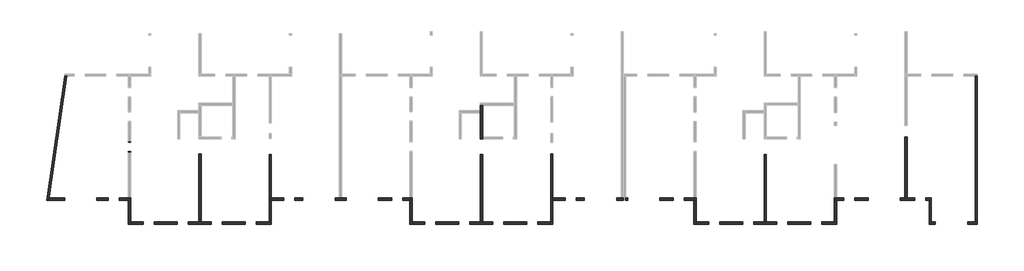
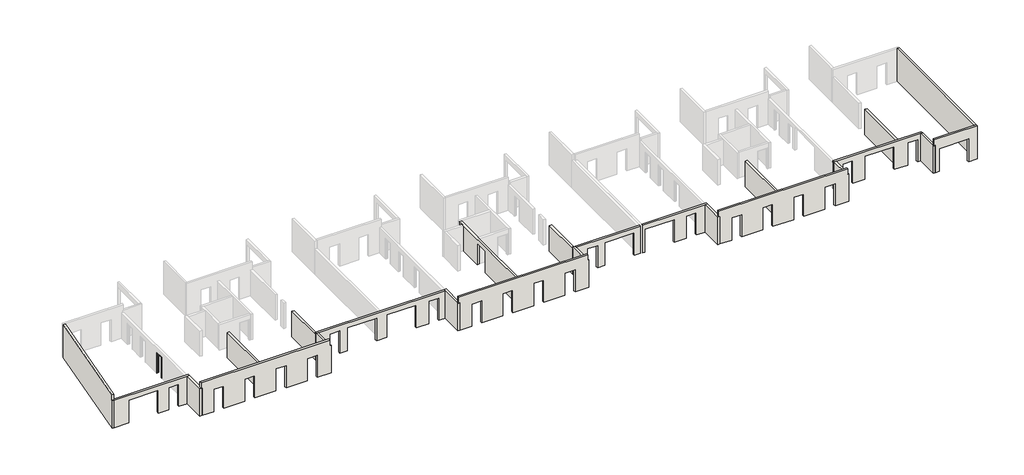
# One storey, part 1 of 3: 24 walls, 1 door.
"""IFC4 building model written with IfcOpenShell, lengths in millimetres."""

from ifc_helpers import new_model, si_unit, frame, origin, place, context, project, spatial, polyline, outline, extrude, faceted_brep, transform, mapped, element, save
from components import door_48b161e2

model = new_model("IFC4")

# Units and contexts
model_context = context("Model", 3, world=origin())
ifc_project = project(units=[si_unit("LENGTHUNIT", "METRE", prefix="MILLI")], contexts=[model_context])

# Site, building, storey
site = spatial("IfcSite", under=ifc_project)
building = spatial("IfcBuilding", under=site)
storey = spatial("IfcBuildingStorey", under=building, Name="Niv +2", Elevation=5400.0)

# Door
placement = place(None, origin())
door_shape = door_48b161e2(model_context)
element("IfcDoor", 1, ObjectType="FREYS HUISSERIE A BANCHER : FREYS 83*2.035", at=placement, inside=storey, context=model_context, shape_type="MappedRepresentation", body=[
    mapped(door_shape, transform((-24535.4687207, 207.5134423, 5400.0), x_axis=(0.0, 1.0, 0.0), y_axis=(-1.0, 0.0, 0.0), z_axis=(0.0, 0.0, 1.0))),
])

# Walls
element("IfcWall", 2, ObjectType="FREYS voile BA C25/30 ep=20 INT", at=placement, inside=storey, context=model_context, shape_type="SweptSolid", body=[
    extrude(outline(polyline([(29564.5058748, -6223.682253), (29564.5058748, -433.6571301), (29764.5058748, -433.6571301), (29764.5058748, -6223.682253), (29564.5058748, -6223.682253)])), frame((0.0, 0.0, 5400.0), z_axis=(0.0, 0.0, 1.0), x_axis=(1.0, 0.0, 0.0)), (0.0, 0.0, 1.0), 2500.0),
])
element("IfcWall", 3, ObjectType="FREYS voile BA C25/30 ep=20 INT", at=placement, inside=storey, context=model_context, shape_type="SweptSolid", body=[
    extrude(outline(polyline([(41564.5566776, -4173.6837353), (41564.5566776, 1056.3989108), (41764.5566776, 1056.3989108), (41764.5566776, -4173.6837353), (41564.5566776, -4173.6837353)])), frame((0.0, 0.0, 5400.0), z_axis=(0.0, 0.0, 1.0), x_axis=(1.0, 0.0, 0.0)), (0.0, 0.0, 1.0), 2500.0),
])
element("IfcWall", 4, ObjectType="FREYS voile BA C25/30 ep=18 EXT", at=placement, inside=storey, context=model_context, shape_type="Brep", body=[
    faceted_brep([(-30063.034009, 6246.3702418, 5400.0), (-31609.8766701, -4353.6571231, 5400.0), (-31609.8766701, -4353.6571231, 7890.0), (-31609.8766701, -4353.6571231, 8100.0), (-31594.8466676, -4250.6612322, 8100.0), (-31594.8466676, -4250.6612322, 8650.0), (-30063.034009, 6246.3702418, 8650.0), (-29881.1275521, 6246.3702418, 5400.0), (-29881.1275521, 6246.3702418, 8650.0), (-31416.733144, -4276.6530139, 8650.0), (-31416.733144, -4276.6530139, 8100.0), (-31427.9702133, -4353.6571231, 8100.0), (-31427.9702133, -4353.6571231, 7890.0), (-31427.9702133, -4353.6571231, 5400.0), (-31401.7031415, -4173.6571231, 5400.0)], [[[0, 1, 2, 3, 4, 5, 6]], [[7, 8, 9, 10, 11, 12, 13, 14]], [[1, 0, 7, 14, 13]], [[6, 5, 9, 8]], [[0, 6, 8, 7]], [[5, 4, 10, 9]], [[10, 4, 3, 11]], [[1, 13, 12, 11, 3, 2]]]),
])
element("IfcWall", 5, ObjectType="FREYS voile BA C25/30 ep=18 EXT", at=placement, inside=storey, context=model_context, shape_type="Brep", body=[
    faceted_brep([(-27315.4431946, -4353.6571231, 7630.0), (-27315.4431946, -4353.6571231, 5400.0), (-26355.4431946, -4353.6571231, 5400.0), (-26355.4431946, -4353.6571231, 7580.0), (-25415.4431946, -4353.6571231, 7580.0), (-25415.4431946, -4353.6571231, 5400.0), (-24635.4687207, -4353.6571231, 5400.0), (-24435.4687207, -4353.6571231, 5400.0), (-24435.4687207, -4353.6571231, 8100.0), (-24635.4687207, -4353.6571231, 8100.0), (-31427.9702133, -4353.6571231, 8100.0), (-31427.9702133, -4353.6571231, 5400.0), (-30055.4431946, -4353.6571231, 5400.0), (-30055.4431946, -4353.6571231, 7630.0), (-26355.4431946, -4173.6571231, 5400.0), (-27315.4431946, -4173.6571231, 5400.0), (-27315.4431946, -4173.6571231, 7630.0), (-30055.4431946, -4173.6571231, 7630.0), (-30055.4431946, -4173.6571231, 5400.0), (-31401.7031415, -4173.6571231, 5400.0), (-31401.7031415, -4173.6571231, 8100.0), (-24435.4687207, -4173.6571231, 8100.0), (-24435.4687207, -4173.6571231, 7900.0), (-24435.4687207, -4173.6571231, 5400.0), (-24635.4687207, -4173.6571231, 5400.0), (-25415.4431946, -4173.6571231, 5400.0), (-25415.4431946, -4173.6571231, 7580.0), (-26355.4431946, -4173.6571231, 7580.0), (-31416.733144, -4276.6530139, 8100.0)], [[[0, 1, 2, 3, 4, 5, 6, 7, 8, 9, 10, 11, 12, 13]], [[14, 15, 16, 17, 18, 19, 20, 21, 22, 23, 24, 25, 26, 27]], [[12, 11, 19, 18]], [[2, 1, 15, 14]], [[23, 7, 6, 5, 25, 24]], [[10, 9, 8, 21, 20, 28]], [[27, 3, 2, 14]], [[4, 26, 25, 5]], [[3, 27, 26, 4]], [[18, 17, 13, 12]], [[16, 15, 1, 0]], [[17, 16, 0, 13]], [[10, 28, 20, 19, 11]], [[7, 23, 22, 21, 8]]]),
])
element("IfcWall", 6, ObjectType="FREYS voile BA C25/30 ep=18 EXT", at=placement, inside=storey, context=model_context, shape_type="Brep", body=[
    faceted_brep([(-12535.4687207, -6403.661173, 8650.0), (-24535.4687207, -6403.661173, 8650.0), (-24535.4687207, -6403.661173, 8100.0), (-24435.4687207, -6403.661173, 8100.0), (-24435.4687207, -6403.661173, 5400.0), (-23357.0301017, -6403.661173, 5400.0), (-23357.0301017, -6403.661173, 7580.0), (-22417.0301017, -6403.661173, 7580.0), (-22417.0301017, -6403.661173, 5400.0), (-20457.0301016, -6403.661173, 5400.0), (-20457.0301016, -6403.661173, 7580.0), (-19517.0301016, -6403.661173, 7580.0), (-19517.0301016, -6403.661173, 5400.0), (-17557.0301112, -6403.661173, 5400.0), (-17557.0301112, -6403.661173, 7580.0), (-16617.0301112, -6403.661173, 7580.0), (-16617.0301112, -6403.661173, 5400.0), (-14657.0301131, -6403.661173, 5400.0), (-14657.0301131, -6403.661173, 7580.0), (-13717.0301131, -6403.661173, 7580.0), (-13717.0301131, -6403.661173, 5400.0), (-12435.4687207, -6403.661173, 5400.0), (-12435.4687207, -6403.661173, 7890.0), (-12435.4687207, -6403.661173, 8100.0), (-12535.4687207, -6403.661173, 8100.0), (-24535.4687207, -6223.661173, 8650.0), (-12535.4687207, -6223.661173, 8650.0), (-12535.4687207, -6223.661173, 8100.0), (-12435.4687207, -6223.661173, 8100.0), (-12435.4687207, -6223.661173, 7890.0), (-12435.4687207, -6223.661173, 5400.0), (-12635.4687207, -6223.661173, 5400.0), (-13717.0301131, -6223.661173, 5400.0), (-13717.0301131, -6223.661173, 7580.0), (-14657.0301131, -6223.661173, 7580.0), (-14657.0301131, -6223.661173, 5400.0), (-16617.0301112, -6223.661173, 5400.0), (-16617.0301112, -6223.661173, 7580.0), (-17557.0301112, -6223.661173, 7580.0), (-17557.0301112, -6223.661173, 5400.0), (-18435.4942293, -6223.661173, 5400.0), (-18635.4942293, -6223.661173, 5400.0), (-19517.0301016, -6223.661173, 5400.0), (-19517.0301016, -6223.661173, 7580.0), (-20457.0301016, -6223.661173, 7580.0), (-20457.0301016, -6223.661173, 5400.0), (-22417.0301017, -6223.661173, 5400.0), (-22417.0301017, -6223.661173, 7580.0), (-23357.0301017, -6223.661173, 7580.0), (-23357.0301017, -6223.661173, 5400.0), (-24435.4687207, -6223.661173, 5400.0), (-24435.4687207, -6223.661173, 8100.0), (-24535.4687207, -6223.661173, 8100.0)], [[[0, 1, 2, 3, 4, 5, 6, 7, 8, 9, 10, 11, 12, 13, 14, 15, 16, 17, 18, 19, 20, 21, 22, 23, 24]], [[25, 26, 27, 28, 29, 30, 31, 32, 33, 34, 35, 36, 37, 38, 39, 40, 41, 42, 43, 44, 45, 46, 47, 48, 49, 50, 51, 52]], [[4, 50, 49, 5]], [[30, 21, 20, 32, 31]], [[8, 46, 45, 9]], [[12, 42, 41, 40, 39, 13]], [[16, 36, 35, 17]], [[1, 0, 26, 25]], [[7, 47, 46, 8]], [[48, 6, 5, 49]], [[47, 7, 6, 48]], [[11, 43, 42, 12]], [[44, 10, 9, 45]], [[43, 11, 10, 44]], [[38, 14, 13, 39]], [[15, 37, 36, 16]], [[14, 38, 37, 15]], [[19, 33, 32, 20]], [[34, 18, 17, 35]], [[33, 19, 18, 34]], [[1, 25, 52, 2]], [[2, 52, 51, 3]], [[50, 4, 3, 51]], [[26, 0, 24, 27]], [[27, 24, 23, 28]], [[21, 30, 29, 28, 23, 22]]]),
])
element("IfcWall", 7, ObjectType="FREYS voile BA C25/30 ep=18 EXT", at=placement, inside=storey, context=model_context, shape_type="Brep", body=[
    faceted_brep([(-10445.443697, -4353.6823111, 5400.0), (-9755.4434502, -4353.6823111, 5400.0), (-9755.4434502, -4353.6823111, 7630.0), (-7015.4434502, -4353.6823111, 7630.0), (-7015.4434502, -4353.6823111, 5400.0), (-6055.4431946, -4353.6823111, 5400.0), (-6055.4431946, -4353.6823111, 7630.0), (-3315.4431946, -4353.6823111, 7630.0), (-3315.4431946, -4353.6823111, 5400.0), (-2175.4432068, -4353.6823111, 5400.0), (-2175.4432068, -4353.6823111, 7580.0), (-1235.4432068, -4353.6823111, 7580.0), (-1235.4432068, -4353.6823111, 5400.0), (-635.4687207, -4353.6823111, 5400.0), (-635.4687207, -4353.6823111, 8100.0), (-12435.4687207, -4353.6823111, 8100.0), (-12635.4687207, -4353.6823111, 8100.0), (-12635.4687207, -4353.6823111, 5400.0), (-12435.4687207, -4353.6823111, 5400.0), (-11385.443697, -4353.6823111, 5400.0), (-11385.443697, -4353.6823111, 7580.0), (-10445.443697, -4353.6823111, 7580.0), (-9755.4434502, -4173.6823111, 7630.0), (-9755.4434502, -4173.6823111, 5400.0), (-10445.443697, -4173.6823111, 5400.0), (-10445.443697, -4173.6823111, 7580.0), (-11385.443697, -4173.6823111, 7580.0), (-11385.443697, -4173.6823111, 5400.0), (-12635.4687207, -4173.6823111, 5400.0), (-12635.4687207, -4173.6823111, 8100.0), (-635.4687207, -4173.6823111, 8100.0), (-635.4687207, -4173.6823111, 5400.0), (-1235.4432068, -4173.6823111, 5400.0), (-1235.4432068, -4173.6823111, 7580.0), (-2175.4432068, -4173.6823111, 7580.0), (-2175.4432068, -4173.6823111, 5400.0), (-3315.4431946, -4173.6823111, 5400.0), (-3315.4431946, -4173.6823111, 7630.0), (-6055.4431946, -4173.6823111, 7630.0), (-6055.4431946, -4173.6823111, 5400.0), (-6435.4433224, -4173.6823111, 5400.0), (-6635.4433224, -4173.6823111, 5400.0), (-7015.4434502, -4173.6823111, 5400.0), (-7015.4434502, -4173.6823111, 7630.0)], [[[0, 1, 2, 3, 4, 5, 6, 7, 8, 9, 10, 11, 12, 13, 14, 15, 16, 17, 18, 19, 20, 21]], [[22, 23, 24, 25, 26, 27, 28, 29, 30, 31, 32, 33, 34, 35, 36, 37, 38, 39, 40, 41, 42, 43]], [[36, 35, 9, 8]], [[24, 23, 1, 0]], [[42, 41, 40, 39, 5, 4]], [[31, 13, 12, 32]], [[19, 18, 17, 28, 27]], [[16, 15, 14, 30, 29]], [[26, 20, 19, 27]], [[21, 25, 24, 0]], [[20, 26, 25, 21]], [[34, 10, 9, 35]], [[11, 33, 32, 12]], [[10, 34, 33, 11]], [[8, 7, 37, 36]], [[6, 5, 39, 38]], [[7, 6, 38, 37]], [[4, 3, 43, 42]], [[2, 1, 23, 22]], [[3, 2, 22, 43]], [[17, 16, 29, 28]], [[13, 31, 30, 14]]]),
])
element("IfcWall", 8, ObjectType="FREYS voile BA C25/30 ep=18 EXT", at=placement, inside=storey, context=model_context, shape_type="Brep", body=[
    faceted_brep([(11464.5281637, -6403.682546, 8650.0), (-535.4687207, -6403.682546, 8650.0), (-535.4687207, -6403.682546, 8100.0), (-435.4687207, -6403.682546, 8100.0), (-435.4687207, -6403.682546, 5400.0), (642.9698985, -6403.682546, 5400.0), (642.9698985, -6403.682546, 7580.0), (1582.9698985, -6403.682546, 7580.0), (1582.9698985, -6403.682546, 5400.0), (3542.9698986, -6403.682546, 5400.0), (3542.9698986, -6403.682546, 7580.0), (4482.9698986, -6403.682546, 7580.0), (4482.9698986, -6403.682546, 5400.0), (6442.9698987, -6403.682546, 5400.0), (6442.9698987, -6403.682546, 7580.0), (7382.9698987, -6403.682546, 7580.0), (7382.9698987, -6403.682546, 5400.0), (9342.9698988, -6403.682546, 5400.0), (9342.9698988, -6403.682546, 7580.0), (10282.9698988, -6403.682546, 7580.0), (10282.9698988, -6403.682546, 5400.0), (11564.5281637, -6403.682546, 5400.0), (11564.5281637, -6403.682546, 7890.0), (11564.5281637, -6403.682546, 8100.0), (11464.5281637, -6403.682546, 8100.0), (-535.4687207, -6223.682546, 8650.0), (11464.5281637, -6223.682546, 8650.0), (11464.5281637, -6223.682546, 8100.0), (11564.5281637, -6223.682546, 8100.0), (11564.5281637, -6223.682546, 7890.0), (11564.5281637, -6223.682546, 5400.0), (11364.5281637, -6223.682546, 5400.0), (10282.9698988, -6223.682546, 5400.0), (10282.9698988, -6223.682546, 7580.0), (9342.9698988, -6223.682546, 7580.0), (9342.9698988, -6223.682546, 5400.0), (7382.9698987, -6223.682546, 5400.0), (7382.9698987, -6223.682546, 7580.0), (6442.9698987, -6223.682546, 7580.0), (6442.9698987, -6223.682546, 5400.0), (5564.5312777, -6223.682546, 5400.0), (5364.5312777, -6223.682546, 5400.0), (4482.9698986, -6223.682546, 5400.0), (4482.9698986, -6223.682546, 7580.0), (3542.9698986, -6223.682546, 7580.0), (3542.9698986, -6223.682546, 5400.0), (1582.9698985, -6223.682546, 5400.0), (1582.9698985, -6223.682546, 7580.0), (642.9698985, -6223.682546, 7580.0), (642.9698985, -6223.682546, 5400.0), (-435.4687207, -6223.682546, 5400.0), (-435.4687207, -6223.682546, 8100.0), (-535.4687207, -6223.682546, 8100.0)], [[[0, 1, 2, 3, 4, 5, 6, 7, 8, 9, 10, 11, 12, 13, 14, 15, 16, 17, 18, 19, 20, 21, 22, 23, 24]], [[25, 26, 27, 28, 29, 30, 31, 32, 33, 34, 35, 36, 37, 38, 39, 40, 41, 42, 43, 44, 45, 46, 47, 48, 49, 50, 51, 52]], [[30, 21, 20, 32, 31]], [[5, 4, 50, 49]], [[8, 46, 45, 9]], [[12, 42, 41, 40, 39, 13]], [[16, 36, 35, 17]], [[1, 0, 26, 25]], [[48, 6, 5, 49]], [[7, 47, 46, 8]], [[6, 48, 47, 7]], [[44, 10, 9, 45]], [[11, 43, 42, 12]], [[10, 44, 43, 11]], [[38, 14, 13, 39]], [[15, 37, 36, 16]], [[14, 38, 37, 15]], [[34, 18, 17, 35]], [[19, 33, 32, 20]], [[18, 34, 33, 19]], [[1, 25, 52, 2]], [[2, 52, 51, 3]], [[50, 4, 3, 51]], [[26, 0, 24, 27]], [[27, 24, 23, 28]], [[21, 30, 29, 28, 23, 22]]]),
])
element("IfcWall", 9, ObjectType="FREYS voile BA C25/30 ep=18 EXT", at=placement, inside=storey, context=model_context, shape_type="Brep", body=[
    faceted_brep([(16984.5565498, -4353.6825564, 7630.0), (16984.5565498, -4353.6825564, 5400.0), (17554.5566776, -4353.6825564, 5400.0), (17554.5566776, -4353.6825564, 8100.0), (11564.5281637, -4353.6825564, 8100.0), (11564.5281637, -4353.6825564, 5400.0), (12614.5563031, -4353.6825564, 5400.0), (12614.5563031, -4353.6825564, 7580.0), (13554.5563031, -4353.6825564, 7580.0), (13554.5563031, -4353.6825564, 5400.0), (14244.5565498, -4353.6825564, 5400.0), (14244.5565498, -4353.6825564, 7630.0), (17554.5566776, -4173.6825564, 5400.0), (17374.5566776, -4173.6825564, 5400.0), (16984.5565498, -4173.6825564, 5400.0), (16984.5565498, -4173.6825564, 7630.0), (14244.5565498, -4173.6825564, 7630.0), (14244.5565498, -4173.6825564, 5400.0), (13554.5563031, -4173.6825564, 5400.0), (13554.5563031, -4173.6825564, 7580.0), (12614.5563031, -4173.6825564, 7580.0), (12614.5563031, -4173.6825564, 5400.0), (11564.5281637, -4173.6825564, 5400.0), (11564.5281637, -4173.6825564, 8100.0), (17374.5566776, -4173.6825564, 8100.0), (17554.5566776, -4173.6825564, 8100.0)], [[[0, 1, 2, 3, 4, 5, 6, 7, 8, 9, 10, 11]], [[12, 13, 14, 15, 16, 17, 18, 19, 20, 21, 22, 23, 24, 25]], [[10, 9, 18, 17]], [[2, 1, 14, 13, 12]], [[5, 22, 21, 6]], [[4, 3, 25, 24, 23]], [[20, 7, 6, 21]], [[8, 19, 18, 9]], [[7, 20, 19, 8]], [[17, 16, 11, 10]], [[15, 14, 1, 0]], [[16, 15, 0, 11]], [[3, 2, 12, 25]], [[5, 4, 23, 22]]]),
])
element("IfcWall", 10, ObjectType="FREYS voile BA C25/30 ep=18 EXT", at=placement, inside=storey, context=model_context, shape_type="Brep", body=[
    faceted_brep([(17774.5566776, -4353.682553, 5400.0), (17944.5617199, -4353.682553, 5400.0), (17944.5617199, -4353.682553, 7630.0), (20684.5617199, -4353.682553, 7630.0), (20684.5617199, -4353.682553, 5400.0), (21824.5664474, -4353.682553, 5400.0), (21824.5664474, -4353.682553, 7580.0), (22764.5664474, -4353.682553, 7580.0), (22764.5664474, -4353.682553, 5400.0), (23564.5564317, -4353.682553, 5400.0), (23764.5564317, -4353.682553, 5400.0), (23764.5564317, -4353.682553, 8100.0), (23564.5564317, -4353.682553, 8100.0), (17774.5566776, -4353.682553, 8100.0), (17944.5617199, -4173.682553, 7630.0), (17944.5617199, -4173.682553, 5400.0), (17774.5566776, -4173.682553, 5400.0), (17774.5566776, -4173.682553, 8100.0), (23764.5564317, -4173.682553, 8100.0), (23764.5564317, -4173.682553, 5400.0), (22764.5664474, -4173.682553, 5400.0), (22764.5664474, -4173.682553, 7580.0), (21824.5664474, -4173.682553, 7580.0), (21824.5664474, -4173.682553, 5400.0), (20684.5617199, -4173.682553, 5400.0), (20684.5617199, -4173.682553, 7630.0)], [[[0, 1, 2, 3, 4, 5, 6, 7, 8, 9, 10, 11, 12, 13]], [[14, 15, 16, 17, 18, 19, 20, 21, 22, 23, 24, 25]], [[24, 23, 5, 4]], [[16, 15, 1, 0]], [[19, 10, 9, 8, 20]], [[13, 12, 11, 18, 17]], [[0, 13, 17, 16]], [[22, 6, 5, 23]], [[7, 21, 20, 8]], [[6, 22, 21, 7]], [[4, 3, 25, 24]], [[2, 1, 15, 14]], [[3, 2, 14, 25]], [[11, 10, 19, 18]]]),
])
element("IfcWall", 11, ObjectType="FREYS voile BA C25/30 ep=18 EXT", at=placement, inside=storey, context=model_context, shape_type="Brep", body=[
    faceted_brep([(35664.5312786, -6403.682253, 8650.0), (23664.5564317, -6403.682253, 8650.0), (23664.5564317, -6403.682253, 8100.0), (23764.5564317, -6403.682253, 8100.0), (23764.5564317, -6403.682253, 5400.0), (24842.9698985, -6403.682253, 5400.0), (24842.9698985, -6403.682253, 7580.0), (25782.9698985, -6403.682253, 7580.0), (25782.9698985, -6403.682253, 5400.0), (27742.9698986, -6403.682253, 5400.0), (27742.9698986, -6403.682253, 7580.0), (28682.9698986, -6403.682253, 7580.0), (28682.9698986, -6403.682253, 5400.0), (30642.9698987, -6403.682253, 5400.0), (30642.9698987, -6403.682253, 7580.0), (31582.9698987, -6403.682253, 7580.0), (31582.9698987, -6403.682253, 5400.0), (33542.9698988, -6403.682253, 5400.0), (33542.9698988, -6403.682253, 7580.0), (34482.9698988, -6403.682253, 7580.0), (34482.9698988, -6403.682253, 5400.0), (35764.5312786, -6403.682253, 5400.0), (35764.5312786, -6403.682253, 7890.0), (35764.5312786, -6403.682253, 8100.0), (35664.5312786, -6403.682253, 8100.0), (23664.5564317, -6223.682253, 8650.0), (35664.5312786, -6223.682253, 8650.0), (35664.5312786, -6223.682253, 8100.0), (35764.5312786, -6223.682253, 8100.0), (35764.5312786, -6223.682253, 7890.0), (35764.5312786, -6223.682253, 5400.0), (35564.5312786, -6223.682253, 5400.0), (34482.9698988, -6223.682253, 5400.0), (34482.9698988, -6223.682253, 7580.0), (33542.9698988, -6223.682253, 7580.0), (33542.9698988, -6223.682253, 5400.0), (31582.9698987, -6223.682253, 5400.0), (31582.9698987, -6223.682253, 7580.0), (30642.9698987, -6223.682253, 7580.0), (30642.9698987, -6223.682253, 5400.0), (29764.5058748, -6223.682253, 5400.0), (29564.5058748, -6223.682253, 5400.0), (28682.9698986, -6223.682253, 5400.0), (28682.9698986, -6223.682253, 7580.0), (27742.9698986, -6223.682253, 7580.0), (27742.9698986, -6223.682253, 5400.0), (25782.9698985, -6223.682253, 5400.0), (25782.9698985, -6223.682253, 7580.0), (24842.9698985, -6223.682253, 7580.0), (24842.9698985, -6223.682253, 5400.0), (23764.5564317, -6223.682253, 5400.0), (23764.5564317, -6223.682253, 8100.0), (23664.5564317, -6223.682253, 8100.0)], [[[0, 1, 2, 3, 4, 5, 6, 7, 8, 9, 10, 11, 12, 13, 14, 15, 16, 17, 18, 19, 20, 21, 22, 23, 24]], [[25, 26, 27, 28, 29, 30, 31, 32, 33, 34, 35, 36, 37, 38, 39, 40, 41, 42, 43, 44, 45, 46, 47, 48, 49, 50, 51, 52]], [[4, 50, 49, 5]], [[30, 21, 20, 32, 31]], [[8, 46, 45, 9]], [[12, 42, 41, 40, 39, 13]], [[16, 36, 35, 17]], [[1, 0, 26, 25]], [[48, 6, 5, 49]], [[7, 47, 46, 8]], [[6, 48, 47, 7]], [[11, 43, 42, 12]], [[44, 10, 9, 45]], [[43, 11, 10, 44]], [[15, 37, 36, 16]], [[38, 14, 13, 39]], [[37, 15, 14, 38]], [[34, 18, 17, 35]], [[19, 33, 32, 20]], [[18, 34, 33, 19]], [[26, 0, 24, 27]], [[27, 24, 23, 28]], [[21, 30, 29, 28, 23, 22]], [[1, 25, 52, 2]], [[2, 52, 51, 3]], [[50, 4, 3, 51]]]),
])
element("IfcWall", 12, ObjectType="FREYS voile BA C25/30 ep=18 EXT", at=placement, inside=storey, context=model_context, shape_type="Brep", body=[
    faceted_brep([(41184.5565498, -4353.6837353, 7630.0), (41184.5565498, -4353.6837353, 5400.0), (42407.3677202, -4353.6837353, 5400.0), (42407.3677202, -4353.6837353, 7580.0), (43347.3677202, -4353.6837353, 7580.0), (43347.3677202, -4353.6837353, 5400.0), (43624.5564412, -4353.6837353, 5400.0), (43804.5564412, -4353.6837353, 5400.0), (43804.5564412, -4353.6837353, 8100.0), (43624.5564412, -4353.6837353, 8100.0), (35764.5312786, -4353.6837353, 8100.0), (35564.5312786, -4353.6837353, 8100.0), (35564.5312786, -4353.6837353, 5400.0), (35764.5312786, -4353.6837353, 5400.0), (36374.5565619, -4353.6837353, 5400.0), (36374.5565619, -4353.6837353, 7580.0), (37314.5565619, -4353.6837353, 7580.0), (37314.5565619, -4353.6837353, 5400.0), (38444.5565498, -4353.6837353, 5400.0), (38444.5565498, -4353.6837353, 7630.0), (42407.3677202, -4173.6837353, 5400.0), (41764.5566776, -4173.6837353, 5400.0), (41564.5566776, -4173.6837353, 5400.0), (41184.5565498, -4173.6837353, 5400.0), (41184.5565498, -4173.6837353, 7630.0), (38444.5565498, -4173.6837353, 7630.0), (38444.5565498, -4173.6837353, 5400.0), (37314.5565619, -4173.6837353, 5400.0), (37314.5565619, -4173.6837353, 7580.0), (36374.5565619, -4173.6837353, 7580.0), (36374.5565619, -4173.6837353, 5400.0), (35564.5312786, -4173.6837353, 5400.0), (35564.5312786, -4173.6837353, 8100.0), (43804.5564412, -4173.6837353, 8100.0), (43804.5564412, -4173.6837353, 5400.0), (43347.3677202, -4173.6837353, 5400.0), (43347.3677202, -4173.6837353, 7580.0), (42407.3677202, -4173.6837353, 7580.0)], [[[0, 1, 2, 3, 4, 5, 6, 7, 8, 9, 10, 11, 12, 13, 14, 15, 16, 17, 18, 19]], [[20, 21, 22, 23, 24, 25, 26, 27, 28, 29, 30, 31, 32, 33, 34, 35, 36, 37]], [[34, 7, 6, 5, 35]], [[18, 17, 27, 26]], [[2, 1, 23, 22, 21, 20]], [[14, 13, 12, 31, 30]], [[11, 10, 9, 8, 33, 32]], [[8, 7, 34, 33]], [[29, 15, 14, 30]], [[16, 28, 27, 17]], [[15, 29, 28, 16]], [[37, 3, 2, 20]], [[4, 36, 35, 5]], [[3, 37, 36, 4]], [[26, 25, 19, 18]], [[24, 23, 1, 0]], [[25, 24, 0, 19]], [[12, 11, 32, 31]]]),
])
element("IfcWall", 13, ObjectType="FREYS voile BA C25/30 ep=18 EXT", at=placement, inside=storey, context=model_context, shape_type="Brep", body=[
    faceted_brep([(43624.5564412, -4353.6837353, 5400.0), (43624.5564412, -6403.7079703, 5400.0), (43624.5564412, -6403.7079703, 7890.0), (43624.5564412, -6403.7079703, 8100.0), (43624.5564412, -6223.682253, 8100.0), (43624.5564412, -4353.6837353, 8100.0), (43804.5564412, -4353.6837353, 5400.0), (43804.5564412, -4353.6837353, 8100.0), (43804.5564412, -6223.7079703, 8100.0), (43804.5564412, -6403.7079703, 8100.0), (43804.5564412, -6403.7079703, 5400.0), (43804.5564412, -6223.7079703, 5400.0), (43714.5564412, -6403.7079703, 8100.0)], [[[0, 1, 2, 3, 4, 5]], [[6, 7, 8, 9, 10, 11]], [[1, 0, 6, 11, 10]], [[5, 4, 3, 12, 9, 8, 7]], [[0, 5, 7, 6]], [[1, 10, 9, 12, 3, 2]]]),
])
element("IfcWall", 14, ObjectType="FREYS voile BA C25/30 ep=18 EXT", at=placement, inside=storey, context=model_context, shape_type="Brep", body=[
    faceted_brep([(46906.0231852, -6403.7079703, 7630.0), (46906.0231852, -6403.7079703, 5400.0), (47734.5312792, -6403.7079703, 5400.0), (47734.5312792, -6403.7079703, 8650.0), (43714.5564412, -6403.7079703, 8650.0), (43714.5564412, -6403.7079703, 8100.0), (43804.5564412, -6403.7079703, 8100.0), (43804.5564412, -6403.7079703, 5400.0), (44166.0231852, -6403.7079703, 5400.0), (44166.0231852, -6403.7079703, 7630.0), (47734.5312792, -6223.7079703, 5400.0), (47554.5312792, -6223.7079703, 5400.0), (46906.0231852, -6223.7079703, 5400.0), (46906.0231852, -6223.7079703, 7630.0), (44166.0231852, -6223.7079703, 7630.0), (44166.0231852, -6223.7079703, 5400.0), (43804.5564412, -6223.7079703, 5400.0), (43804.5564412, -6223.7079703, 8100.0), (43714.5564412, -6223.7079703, 8100.0), (43714.5564412, -6223.7079703, 8650.0), (47554.5312792, -6223.7079703, 8650.0), (47734.5312792, -6223.7079703, 8650.0)], [[[0, 1, 2, 3, 4, 5, 6, 7, 8, 9]], [[10, 11, 12, 13, 14, 15, 16, 17, 18, 19, 20, 21]], [[8, 7, 16, 15]], [[2, 1, 12, 11, 10]], [[4, 3, 21, 20, 19]], [[3, 2, 10, 21]], [[15, 14, 9, 8]], [[13, 12, 1, 0]], [[14, 13, 0, 9]], [[5, 4, 19, 18]], [[5, 18, 17, 6]], [[6, 17, 16, 7]]]),
])
element("IfcWall", 15, ObjectType="FREYS voile BA C25/30 ep=20 INT", at=placement, inside=storey, context=model_context, shape_type="SweptSolid", body=[
    extrude(outline(polyline([(-18435.4942293, -423.6548958), (-18435.4942293, -6223.661173), (-18635.4942293, -6223.661173), (-18635.4942293, -423.6548958), (-18435.4942293, -423.6548958)])), frame((0.0, 0.0, 5400.0), z_axis=(0.0, 0.0, 1.0), x_axis=(1.0, 0.0, 0.0)), (0.0, 0.0, 1.0), 2500.0),
])
element("IfcWall", 16, ObjectType="FREYS voile BA C25/30 ep=20 INT", at=placement, inside=storey, context=model_context, shape_type="SweptSolid", body=[
    extrude(outline(polyline([(-12635.4687207, -4173.6823111), (-12635.4687207, -453.6439858), (-12435.4687207, -453.6439858), (-12435.4687207, -4173.6823111), (-12635.4687207, -4173.6823111)])), frame((0.0, 0.0, 5400.0), z_axis=(0.0, 0.0, 1.0), x_axis=(1.0, 0.0, 0.0)), (0.0, 0.0, 1.0), 2500.0),
])
element("IfcWall", 17, ObjectType="FREYS voile BA C25/30 ep=20 INT", at=placement, inside=storey, context=model_context, shape_type="Brep", body=[
    faceted_brep([(5364.5312777, -433.6977247, 7490.0), (5364.5312777, -433.6977247, 5400.0), (5364.5312777, -6223.682546, 5400.0), (5364.5312777, -6223.682546, 7900.0), (5364.5312777, 3086.3428538, 7900.0), (5364.5312777, 3286.3428538, 7900.0), (5364.5312777, 3736.3174518, 7900.0), (5364.5312777, 3736.3174518, 5400.0), (5364.5312777, 3286.3428538, 5400.0), (5364.5312777, 3086.3428538, 5400.0), (5364.5312777, 856.3022753, 5400.0), (5364.5312777, 856.3022753, 7490.0), (5564.5312777, -6223.682546, 5400.0), (5564.5312777, -433.6977247, 5400.0), (5564.5312777, -433.6977247, 7490.0), (5564.5312777, 856.3022753, 7490.0), (5564.5312777, 856.3022753, 5400.0), (5564.5312777, 1036.3022753, 5400.0), (5564.5312777, 3736.3174518, 5400.0), (5564.5312777, 3736.3174518, 7900.0), (5564.5312777, 1036.3022753, 7900.0), (5564.5312777, 856.3022753, 7900.0), (5564.5312777, -6223.682546, 7900.0)], [[[0, 1, 2, 3, 4, 5, 6, 7, 8, 9, 10, 11]], [[12, 13, 14, 15, 16, 17, 18, 19, 20, 21, 22]], [[2, 1, 13, 12]], [[10, 9, 8, 7, 18, 17, 16]], [[6, 5, 4, 3, 22, 21, 20, 19]], [[7, 6, 19, 18]], [[3, 2, 12, 22]], [[16, 15, 11, 10]], [[14, 13, 1, 0]], [[15, 14, 0, 11]]]),
])
element("IfcWall", 18, ObjectType="FREYS voile BA C25/30 ep=20 INT", at=placement, inside=storey, context=model_context, shape_type="SweptSolid", body=[
    extrude(outline(polyline([(11364.5281637, -4173.6825564), (11364.5281637, -393.6439858), (11564.5281637, -393.6439858), (11564.5281637, -4173.6825564), (11364.5281637, -4173.6825564)])), frame((0.0, 0.0, 5400.0), z_axis=(0.0, 0.0, 1.0), x_axis=(1.0, 0.0, 0.0)), (0.0, 0.0, 1.0), 2500.0),
])
element("IfcWall", 19, ObjectType="FREYS voile BA C25/30 ep=18 EXT", at=placement, inside=storey, context=model_context, shape_type="SweptSolid", body=[
    extrude(outline(polyline([(47554.5312792, -6223.7079703), (47554.5312792, 6236.3428699), (47734.5312792, 6236.3428699), (47734.5312792, -6223.7079703), (47554.5312792, -6223.7079703)])), frame((0.0, 0.0, 5400.0), z_axis=(0.0, 0.0, 1.0), x_axis=(1.0, 0.0, 0.0)), (0.0, 0.0, 1.0), 3250.0),
])
element("IfcWall", 20, ObjectType="FREYS voile BA C25/30 ep=20 EXT", at=placement, inside=storey, context=model_context, shape_type="Brep", body=[
    faceted_brep([(-24635.4687207, -4353.6571231, 8100.0), (-24635.4687207, -4353.6571231, 5400.0), (-24635.4687207, -6403.661173, 5400.0), (-24635.4687207, -6403.661173, 7890.0), (-24635.4687207, -6403.661173, 8100.0), (-24635.4687207, -6223.661173, 8100.0), (-24435.4687207, -4353.6571231, 5400.0), (-24435.4687207, -4353.6571231, 8100.0), (-24435.4687207, -6223.661173, 8100.0), (-24435.4687207, -6403.661173, 8100.0), (-24435.4687207, -6403.661173, 5400.0), (-24435.4687207, -6223.661173, 5400.0), (-24535.4687207, -6403.661173, 8100.0)], [[[0, 1, 2, 3, 4, 5]], [[6, 7, 8, 9, 10, 11]], [[2, 1, 6, 11, 10]], [[0, 5, 4, 12, 9, 8, 7]], [[2, 10, 9, 12, 4, 3]], [[0, 7, 6, 1]]]),
])
element("IfcWall", 21, ObjectType="FREYS voile BA C25/30 ep=20 EXT", at=placement, inside=storey, context=model_context, shape_type="Brep", body=[
    faceted_brep([(35564.5312786, -4353.6837353, 5400.0), (35564.5312786, -6223.682253, 5400.0), (35564.5312786, -6223.682253, 8100.0), (35564.5312786, -4353.6837353, 8100.0), (35764.5312786, -4353.6837353, 5400.0), (35764.5312786, -4353.6837353, 8100.0), (35764.5312786, -6223.682253, 8100.0), (35764.5312786, -6223.682253, 5400.0), (35664.5312786, -6223.682253, 8100.0)], [[[0, 1, 2, 3]], [[4, 5, 6, 7]], [[1, 0, 4, 7]], [[3, 2, 8, 6, 5]], [[0, 3, 5, 4]], [[1, 7, 6, 8, 2]]]),
])
element("IfcWall", 22, ObjectType="FREYS voile BA C25/30 ep=20 EXT", at=placement, inside=storey, context=model_context, shape_type="Brep", body=[
    faceted_brep([(23564.5564317, -4353.682553, 5400.0), (23564.5564317, -6403.682253, 5400.0), (23564.5564317, -6403.682253, 7890.0), (23564.5564317, -6403.682253, 8100.0), (23564.5564317, -6223.682546, 8100.0), (23564.5564317, -4353.682553, 8100.0), (23764.5564317, -4353.682553, 5400.0), (23764.5564317, -4353.682553, 8100.0), (23764.5564317, -6223.682253, 8100.0), (23764.5564317, -6403.682253, 8100.0), (23764.5564317, -6403.682253, 5400.0), (23764.5564317, -6223.682253, 5400.0), (23664.5564317, -6403.682253, 8100.0)], [[[0, 1, 2, 3, 4, 5]], [[6, 7, 8, 9, 10, 11]], [[1, 0, 6, 11, 10]], [[5, 4, 3, 12, 9, 8, 7]], [[0, 5, 7, 6]], [[1, 10, 9, 12, 3, 2]]]),
])
element("IfcWall", 23, ObjectType="FREYS voile BA C25/30 ep=20 EXT", at=placement, inside=storey, context=model_context, shape_type="Brep", body=[
    faceted_brep([(11364.5281637, -4173.6825564, 5400.0), (11364.5281637, -6223.682546, 5400.0), (11364.5281637, -6223.682546, 8100.0), (11364.5281637, -4173.6825564, 8100.0), (11564.5281637, -4173.6825564, 5400.0), (11564.5281637, -4173.6825564, 8100.0), (11564.5281637, -4353.6825564, 8100.0), (11564.5281637, -6223.682546, 8100.0), (11564.5281637, -6223.682546, 5400.0), (11564.5281637, -4353.6825564, 5400.0), (11464.5281637, -6223.682546, 8100.0)], [[[0, 1, 2, 3]], [[4, 5, 6, 7, 8, 9]], [[1, 0, 4, 9, 8]], [[3, 2, 10, 7, 6, 5]], [[0, 3, 5, 4]], [[1, 8, 7, 10, 2]]]),
])
element("IfcWall", 24, ObjectType="FREYS voile BA C25/30 ep=20 EXT", at=placement, inside=storey, context=model_context, shape_type="Brep", body=[
    faceted_brep([(-635.4687207, -4173.6823111, 8100.0), (-635.4687207, -4173.6823111, 7900.0), (-635.4687207, -4173.6823111, 5400.0), (-635.4687207, -4353.6823111, 5400.0), (-635.4687207, -6403.682546, 5400.0), (-635.4687207, -6403.682546, 7890.0), (-635.4687207, -6403.682546, 8100.0), (-635.4687207, -6223.661173, 8100.0), (-635.4687207, -4353.6823111, 8100.0), (-435.4687207, -4173.6823111, 5400.0), (-435.4687207, -4173.6823111, 7900.0), (-435.4687207, -4173.6823111, 8100.0), (-435.4687207, -6223.682546, 8100.0), (-435.4687207, -6403.682546, 8100.0), (-435.4687207, -6403.682546, 5400.0), (-435.4687207, -6223.682546, 5400.0), (-535.4687207, -6403.682546, 8100.0)], [[[0, 1, 2, 3, 4, 5, 6, 7, 8]], [[9, 10, 11, 12, 13, 14, 15]], [[4, 3, 2, 9, 15, 14]], [[0, 8, 7, 6, 16, 13, 12, 11]], [[4, 14, 13, 16, 6, 5]], [[0, 11, 10, 9, 2, 1]]]),
])
element("IfcWall", 25, ObjectType="FREYS voile BA C25/30 ep=20 EXT", at=placement, inside=storey, context=model_context, shape_type="Brep", body=[
    faceted_brep([(-12635.4687207, -4353.6823111, 5400.0), (-12635.4687207, -6223.661173, 5400.0), (-12635.4687207, -6223.661173, 8100.0), (-12635.4687207, -4353.6823111, 8100.0), (-12435.4687207, -4353.6823111, 5400.0), (-12435.4687207, -4353.6823111, 8100.0), (-12435.4687207, -6223.661173, 8100.0), (-12435.4687207, -6223.661173, 5400.0), (-12535.4687207, -6223.661173, 8100.0)], [[[0, 1, 2, 3]], [[4, 5, 6, 7]], [[1, 0, 4, 7]], [[3, 2, 8, 6, 5]], [[0, 3, 5, 4]], [[1, 7, 6, 8, 2]]]),
])

save(model, "model.ifc")
